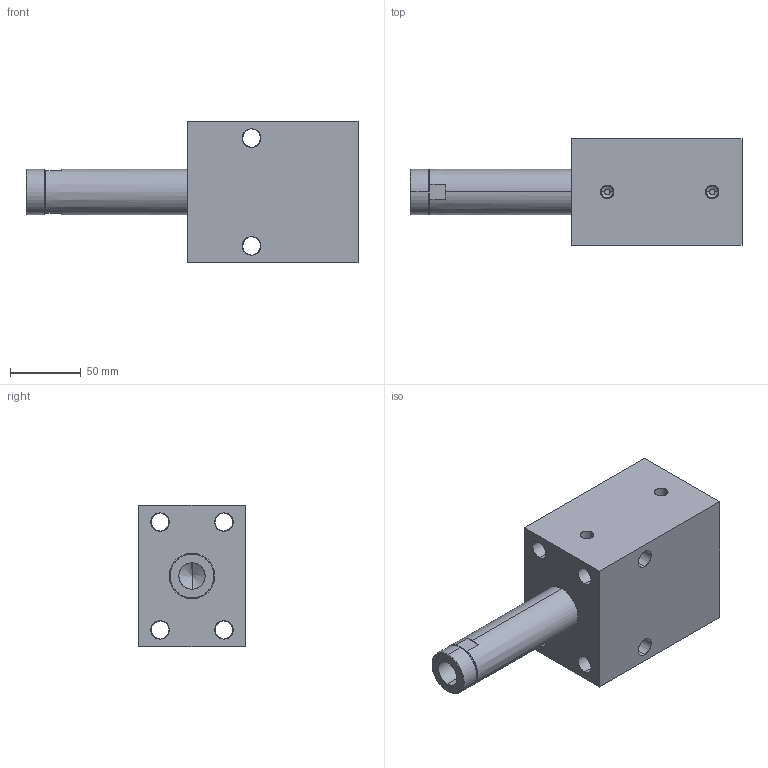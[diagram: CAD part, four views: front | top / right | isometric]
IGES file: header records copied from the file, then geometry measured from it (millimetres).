
Start section: SolidWorks IGES file using analytic representation for surfaces
Global section: file name: C:\Documents and Settings\rajib\Desktop\Rajib\BLOCK CYLINDER HYDRAULIC\0501-0506\IGS 0501-0508\0508.IGS; native system: SolidWorks 2007; preprocessor: SolidWorks 2007; author: rajib; date: 110121.103924; units: millimetre
Bounding box: 234 x 75 x 100 mm (x, y, z)
Surface area: 94353.2 mm2 (no closed solid volume)
Topology: 0 solids, 0 shells, 80 faces, 1872 edges, 1870 vertices
Faces by surface type: revolution 58, bspline 22
